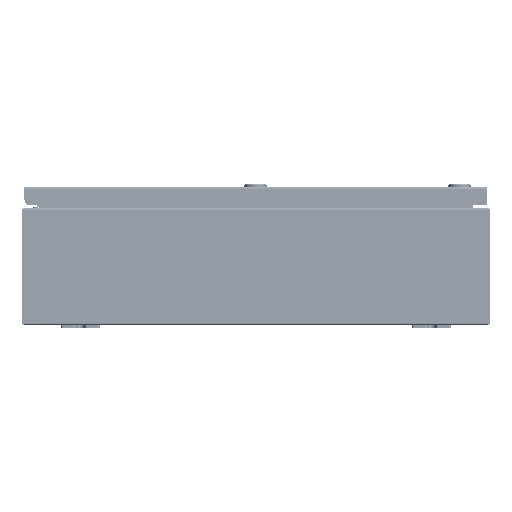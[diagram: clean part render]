
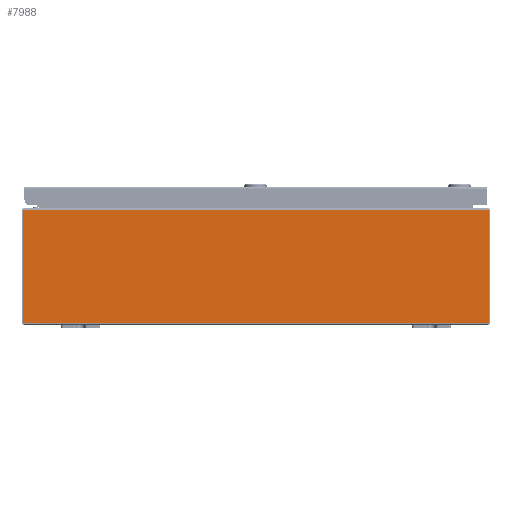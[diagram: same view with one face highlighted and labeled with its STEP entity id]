
A CAD part, front view. The second image highlights one B-rep face of the part: STEP entity #7988.
In plain terms, the highlighted planar face has unit normal (0, -1, 0).
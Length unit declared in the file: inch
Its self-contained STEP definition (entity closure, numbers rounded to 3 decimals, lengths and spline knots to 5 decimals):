
#2265=CARTESIAN_POINT('',(-11.925,-10.0,5.89491));
#2266=VERTEX_POINT('',#2265);
#2274=CARTESIAN_POINT('',(11.925,-10.,5.89491));
#2275=VERTEX_POINT('',#2274);
#2276=CARTESIAN_POINT('',(11.925,-10.0,5.89491));
#2277=DIRECTION('',(-1.0,0.0,0.0));
#2278=VECTOR('',#2277,23.85);
#2279=LINE('',#2276,#2278);
#2280=EDGE_CURVE('',#2275,#2266,#2279,.T.);
#2313=CARTESIAN_POINT('',(-11.925,-10.,0.084));
#2314=VERTEX_POINT('',#2313);
#2323=CARTESIAN_POINT('',(-11.925,-10.0,0.084));
#2324=DIRECTION('',(0.0,0.0,1.0));
#2325=VECTOR('',#2324,5.81091);
#2326=LINE('',#2323,#2325);
#2327=EDGE_CURVE('',#2314,#2266,#2326,.T.);
#6719=CARTESIAN_POINT('',(11.925,-10.,0.084));
#6720=VERTEX_POINT('',#6719);
#6721=CARTESIAN_POINT('',(11.925,-10.,5.89491));
#6722=DIRECTION('',(0.0,0.0,-1.0));
#6723=VECTOR('',#6722,5.81091);
#6724=LINE('',#6721,#6723);
#6725=EDGE_CURVE('',#2275,#6720,#6724,.T.);
#7798=CARTESIAN_POINT('',(-11.925,-10.0,0.084));
#7799=DIRECTION('',(1.0,0.0,0.0));
#7800=VECTOR('',#7799,23.85);
#7801=LINE('',#7798,#7800);
#7802=EDGE_CURVE('',#2314,#6720,#7801,.T.);
#7977=CARTESIAN_POINT('',(0.0,-10.0,2.98946));
#7978=DIRECTION('',(0.0,1.0,0.0));
#7979=DIRECTION('',(0.0,0.0,1.0));
#7980=AXIS2_PLACEMENT_3D('',#7977,#7978,#7979);
#7981=PLANE('',#7980);
#7982=ORIENTED_EDGE('',*,*,#2280,.T.);
#7983=ORIENTED_EDGE('',*,*,#2327,.F.);
#7984=ORIENTED_EDGE('',*,*,#7802,.T.);
#7985=ORIENTED_EDGE('',*,*,#6725,.F.);
#7986=EDGE_LOOP('',(#7982,#7983,#7984,#7985));
#7987=FACE_OUTER_BOUND('',#7986,.T.);
#7988=ADVANCED_FACE('',(#7987),#7981,.F.);
